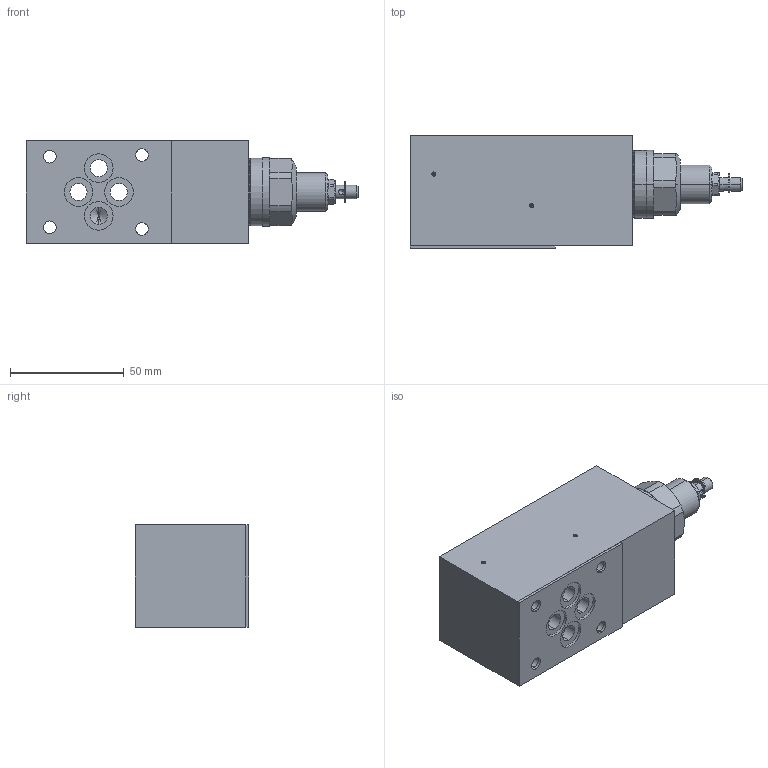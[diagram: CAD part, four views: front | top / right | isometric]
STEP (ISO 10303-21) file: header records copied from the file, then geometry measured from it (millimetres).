
FILE_DESCRIPTION (( 'STEP AP214' ), '1' );
FILE_NAME ('QZSSA06-T.STEP', '2017-04-19T11:16:04', ( '' ), ( '' ), 'SwSTEP 2.0', 'SolidWorks 2016', '' );
FILE_SCHEMA (( 'AUTOMOTIVE_DESIGN' ));
Length unit declared in the file: millimetre
Products named in the file (1): QZSSA06-T
Bounding box: 146.1 x 49.75 x 45 mm (x, y, z)
Volume: 220195.9 mm3; surface area: 40281.2 mm2
Topology: 4 solids, 8 shells, 299 faces, 742 edges, 461 vertices
Faces by surface type: cylinder 111, plane 105, cone 60, torus 10, bspline 9, sphere 4
Entity records: 12937 total; most frequent: CARTESIAN_POINT 2424, DIRECTION 1544, ORIENTED_EDGE 1448, EDGE_CURVE 724, AXIS2_PLACEMENT_3D 603, VERTEX_POINT 461, EDGE_LOOP 355, LINE 338
